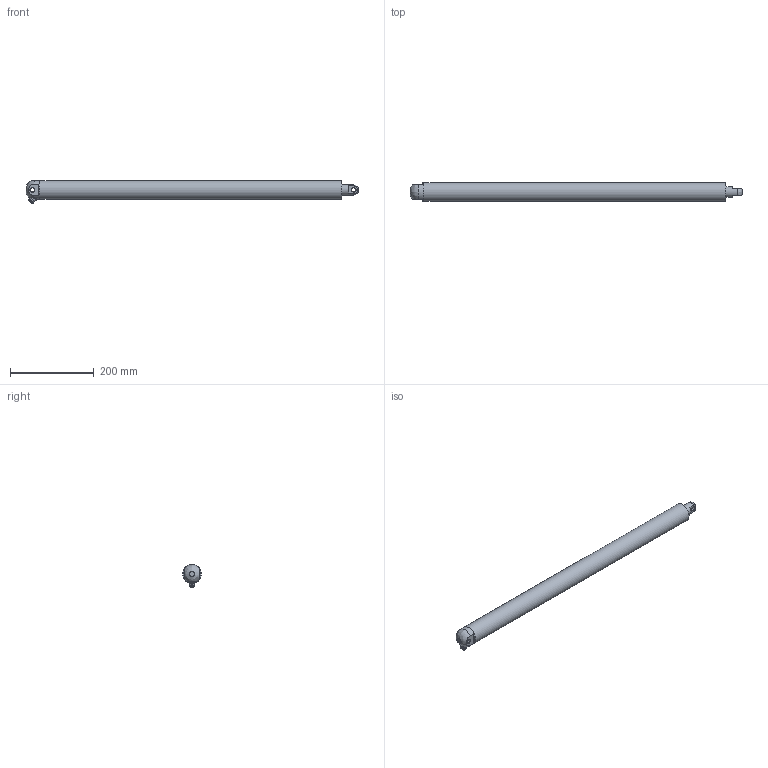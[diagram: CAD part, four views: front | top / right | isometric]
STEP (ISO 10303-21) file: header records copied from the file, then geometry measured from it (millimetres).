
FILE_DESCRIPTION( ( 'Unknown' ), '1' );
FILE_NAME( 'Z:/12¬ãµo³¡/Project/Automation/Linear Actuators/CAD/ELA45/STEP/ELA45500B.stp', 'Unknown', ( 'Unknown' ), ( 'Unknown' ), 'PSStep 10.0', 'Unknown', ' ' );
FILE_SCHEMA( ( 'AUTOMOTIVE_DESIGN { 1 0 10303 214 1 1 1 1 }' ) );
Length unit declared in the file: millimetre
Products named in the file (1): 1
Bounding box: 795 x 45 x 54.84 mm (x, y, z)
Volume: 296251.6 mm3; surface area: 207014.8 mm2
Topology: 1 solids, 2 shells, 64 faces, 157 edges, 102 vertices
Faces by surface type: plane 32, cylinder 22, cone 7, bspline 2, torus 1
Full cylindrical faces by diameter (mm): 6.4 x1, 10.1 x2, 13.8 x2, 25 x1, 40 x1, 45 x2
Entity records: 2566 total; most frequent: CARTESIAN_POINT 604, DIRECTION 312, ORIENTED_EDGE 262, EDGE_CURVE 131, AXIS2_PLACEMENT_3D 125, VERTEX_POINT 95, EDGE_LOOP 92, FACE_OUTER_BOUND 76
